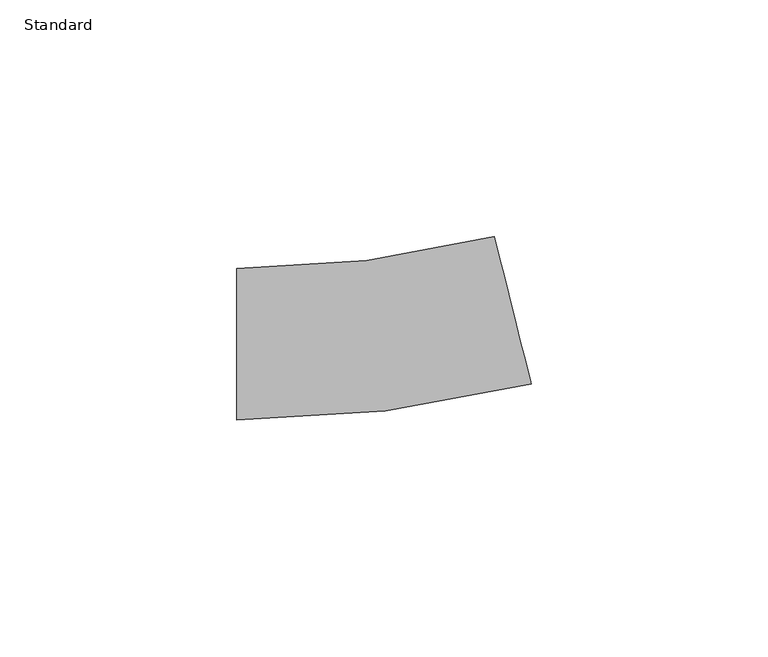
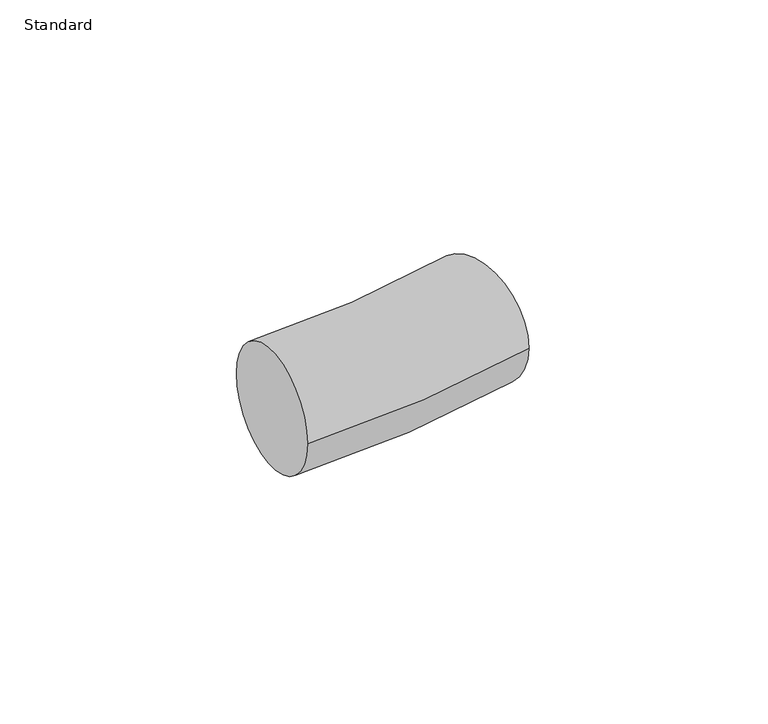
"""IFC4 building model written with IfcOpenShell, lengths in millimetres: pipe fitting geometry, COMAP - MULTISKIN - Coude Cintre : Standard."""

from ifc_helpers import new_model, si_unit, point, frame, origin, place, context, project, spatial, circle_curve, ellipse_curve, trimmed, source, transform, mapped, element, save
from ifc_brep_helpers import plane_surface, revolved_surface, advanced_brep


def standard_f86e1c61(model_context):
    return source(origin(), model_context, "Body", "AdvancedBrep", [
        advanced_brep(
        [(-29.5468646, -16.0, 0.0), (-29.5468646, 16.0, 0.0), (32.545343, -8.3557081, 0.0), (24.7838171, 22.6887554, 0.0)],
        [
            (0, 1, circle_curve(frame((-29.5468646, 0.0, 0.0), z_axis=(-1.0, 0.0, 0.0), x_axis=(0.0, 1.0, 0.0)), 16.0)),
            (1, 0, circle_curve(frame((-29.5468646, 0.0, 0.0), z_axis=(-1.0, 0.0, 0.0), x_axis=(0.0, 1.0, 0.0)), 16.0)),
            (2, 3, circle_curve(frame((28.66458, 7.1665236, 0.0), z_axis=(0.9701394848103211, 0.24254768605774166, 0.0), x_axis=(-0.24254768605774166, 0.9701394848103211, 0.0)), 16.0)),
            (3, 2, circle_curve(frame((28.66458, 7.1665236, 0.0), z_axis=(0.9701394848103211, 0.24254768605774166, 0.0), x_axis=(-0.24254768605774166, 0.9701394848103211, 0.0)), 16.0)),
            (3, 1, circle_curve(frame((-29.5468646, 240.0, 0.0), z_axis=(0.0, 0.0, -1.0), x_axis=(0.0, -1.0, 0.0)), 224.0)),
            (0, 2, circle_curve(frame((-29.5468646, 240.0, 0.0), z_axis=(0.0, 0.0, 1.0), x_axis=(0.0, -1.0, 0.0)), 256.0)),
        ],
        [
            plane_surface(frame((-29.5468646, 0.0, 0.0), z_axis=(-1.0, 0.0, 0.0), x_axis=(0.0, 0.0, 1.0))),
            plane_surface(frame((28.66458, 7.1665236, 0.0), z_axis=(0.9701394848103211, 0.24254768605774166, 0.0), x_axis=(0.0, 0.0, 1.0))),
            revolved_surface(trimmed(ellipse_curve(frame((-29.5468646, 0.0, 0.0), z_axis=(-1.0, 0.0, 0.0), x_axis=(0.0, 1.0, 0.0)), 16.0, 16.0), [point((-29.5468646, -16.0, 0.0))], [point((-29.5468646, 16.0, 0.0))], True, "CARTESIAN"), (-29.5468646, 240.0, 0.0), (0.0, 0.0, 1.0)),
            revolved_surface(trimmed(ellipse_curve(frame((-29.5468646, 0.0, 0.0), z_axis=(-1.0, 0.0, 0.0), x_axis=(0.0, 1.0, 0.0)), 16.0, 16.0), [point((-29.5468646, 16.0, 0.0))], [point((-29.5468646, -16.0, 0.0))], True, "CARTESIAN"), (-29.5468646, 240.0, 0.0), (0.0, 0.0, 1.0)),
        ],
        [
            (0, [[1, 2]]),
            (1, [[3, 4]]),
            (2, [[5, -1, 6, -4]]),
            (3, [[-6, -2, -5, -3]]),
        ],
    ),
        advanced_brep(
        [(-29.5468646, -16.0, 0.0), (-29.5468646, 16.0, 0.0), (32.545343, -8.3557081, 0.0), (24.7838171, 22.6887554, 0.0)],
        [
            (0, 1, circle_curve(frame((-29.5468646, 0.0, 0.0), z_axis=(-1.0, 0.0, 0.0), x_axis=(0.0, 1.0, 0.0)), 16.0)),
            (1, 0, circle_curve(frame((-29.5468646, 0.0, 0.0), z_axis=(-1.0, 0.0, 0.0), x_axis=(0.0, 1.0, 0.0)), 16.0)),
            (2, 3, circle_curve(frame((28.66458, 7.1665236, 0.0), z_axis=(0.9701394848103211, 0.24254768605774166, 0.0), x_axis=(-0.24254768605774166, 0.9701394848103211, 0.0)), 16.0)),
            (3, 2, circle_curve(frame((28.66458, 7.1665236, 0.0), z_axis=(0.9701394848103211, 0.24254768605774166, 0.0), x_axis=(-0.24254768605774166, 0.9701394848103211, 0.0)), 16.0)),
            (3, 1, circle_curve(frame((-29.5468646, 240.0, 0.0), z_axis=(0.0, 0.0, -1.0), x_axis=(0.0, -1.0, 0.0)), 224.0)),
            (0, 2, circle_curve(frame((-29.5468646, 240.0, 0.0), z_axis=(0.0, 0.0, 1.0), x_axis=(0.0, -1.0, 0.0)), 256.0)),
        ],
        [
            plane_surface(frame((-29.5468646, 0.0, 0.0), z_axis=(-1.0, 0.0, 0.0), x_axis=(0.0, 0.0, 1.0))),
            plane_surface(frame((28.66458, 7.1665236, 0.0), z_axis=(0.9701394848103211, 0.24254768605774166, 0.0), x_axis=(0.0, 0.0, 1.0))),
            revolved_surface(trimmed(ellipse_curve(frame((-29.5468646, 0.0, 0.0), z_axis=(-1.0, 0.0, 0.0), x_axis=(0.0, 1.0, 0.0)), 16.0, 16.0), [point((-29.5468646, -16.0, 0.0))], [point((-29.5468646, 16.0, 0.0))], True, "CARTESIAN"), (-29.5468646, 240.0, 0.0), (0.0, 0.0, 1.0)),
            revolved_surface(trimmed(ellipse_curve(frame((-29.5468646, 0.0, 0.0), z_axis=(-1.0, 0.0, 0.0), x_axis=(0.0, 1.0, 0.0)), 16.0, 16.0), [point((-29.5468646, 16.0, 0.0))], [point((-29.5468646, -16.0, 0.0))], True, "CARTESIAN"), (-29.5468646, 240.0, 0.0), (0.0, 0.0, 1.0)),
        ],
        [
            (0, [[1, 2]]),
            (1, [[3, 4]]),
            (2, [[5, -1, 6, -4]]),
            (3, [[-6, -2, -5, -3]]),
        ],
    ),
    ])


if __name__ == "__main__":
    model = new_model("IFC4")
    model_context = context("Model", 3, world=origin())
    ifc_project = project(units=[si_unit("LENGTHUNIT", "METRE", prefix="MILLI")], contexts=[model_context])
    site = spatial("IfcSite", under=ifc_project)
    building = spatial("IfcBuilding", under=site)
    placement = place(None, origin())
    standard_shape = standard_f86e1c61(model_context)
    element("IfcPipeFitting", 1, ObjectType="COMAP - MULTISKIN - Coude Cintre : Standard", at=placement, inside=building, context=model_context, shape_type="MappedRepresentation", body=[
        mapped(standard_shape, transform((0.0, 0.0, 0.0), x_axis=(1.0, 0.0, 0.0), y_axis=(0.0, 1.0, 0.0), z_axis=(0.0, 0.0, 1.0))),
    ])
    save(model, "model.ifc")
